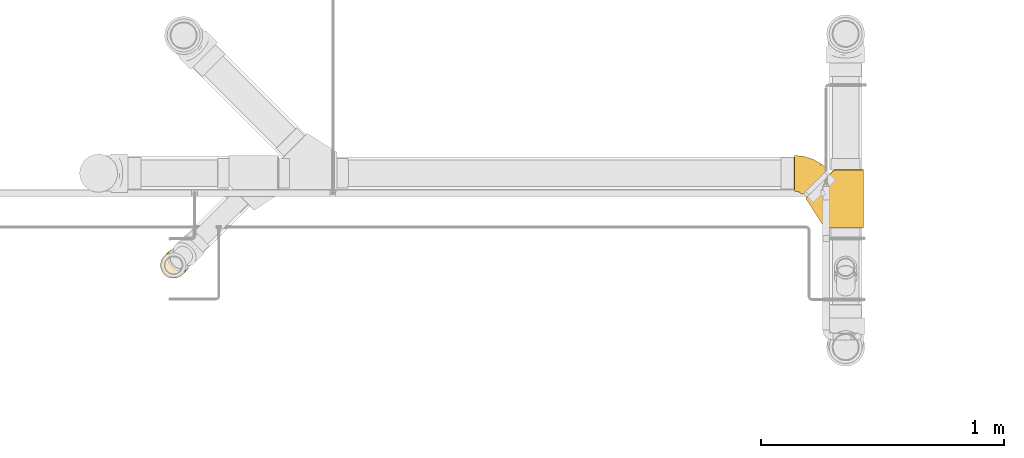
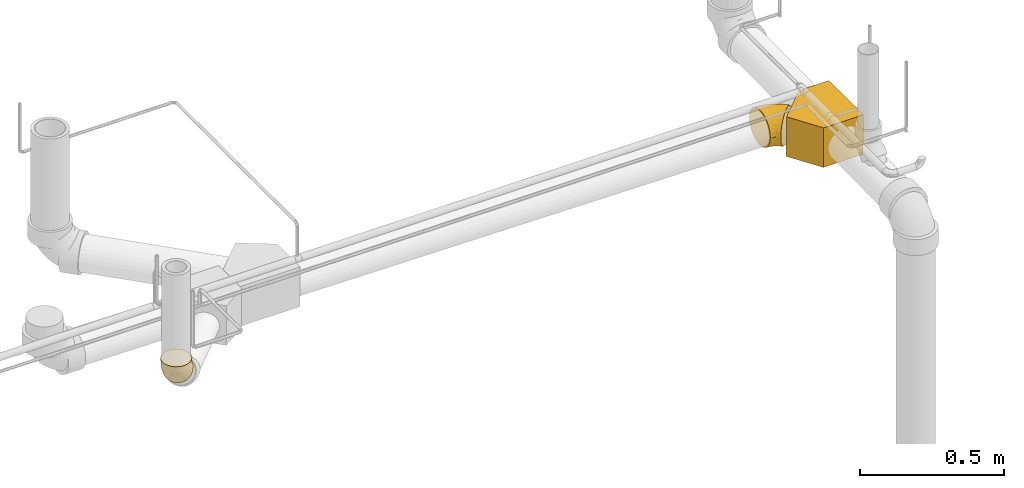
# One storey, part 10 of 108: 3 coverings.
"""IFC2X3 building model written with IfcOpenShell, lengths in millimetres."""

from ifc_helpers import new_model, entity, si_unit, converted_unit, derived_unit, direction, frame, origin_with_axes, place, context, subcontext, project, spatial, open_shell, surface_model, source, transform, mapped, element, save


model = new_model("IFC2X3")

# Units and contexts
model_context = context("Model", 3, precision=0.01, world=frame((0.0, 4.29681676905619e-09, 0.0)), true_north=direction((4.01073788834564e-13, 1.0)))
plan_context = context("Plan", 3, precision=0.01, world=frame((0.0, 4.29681676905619e-09, 0.0)), true_north=direction((4.01073788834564e-13, 1.0)))
body_context = subcontext(model_context, "Body", "Model", "MODEL_VIEW")
ifc_project = project(units=[converted_unit("PLANEANGLEUNIT", "DEGREE", entity("IfcPositiveLengthMeasure", 0.0174532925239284), si_unit("PLANEANGLEUNIT", "RADIAN"), dimensions=[0, 0, 0, 0, 0, 0, 0]), si_unit("AREAUNIT", "SQUARE_METRE"), si_unit("LENGTHUNIT", "METRE", prefix="MILLI"), si_unit("MASSUNIT", "GRAM", prefix="KILO"), si_unit("POWERUNIT", "WATT"), si_unit("PRESSUREUNIT", "PASCAL", prefix="KILO"), si_unit("FORCEUNIT", "NEWTON", prefix="KILO"), si_unit("ELECTRICVOLTAGEUNIT", "VOLT"), si_unit("ELECTRICCURRENTUNIT", "AMPERE"), si_unit("THERMODYNAMICTEMPERATUREUNIT", "DEGREE_CELSIUS"), si_unit("TIMEUNIT", "SECOND"), si_unit("VOLUMEUNIT", "CUBIC_METRE"), derived_unit("LINEARVELOCITYUNIT", [(si_unit("LENGTHUNIT", "METRE"), 1), (si_unit("TIMEUNIT", "SECOND"), -1)]), derived_unit("VOLUMETRICFLOWRATEUNIT", [(si_unit("VOLUMEUNIT", "CUBIC_METRE"), 1), (si_unit("TIMEUNIT", "SECOND"), -1)]), derived_unit("THERMALTRANSMITTANCEUNIT", [(si_unit("POWERUNIT", "WATT"), 1), (si_unit("THERMODYNAMICTEMPERATUREUNIT", "KELVIN"), -1), (si_unit("AREAUNIT", "SQUARE_METRE"), -1)]), derived_unit("SOUNDPRESSUREUNIT", [(si_unit("PRESSUREUNIT", "PASCAL"), 1)])], contexts=[model_context, plan_context])

# Site, building, storey
site_placement = place(None, frame((0.0, -4.29681676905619e-09, 0.0), z_axis=(0.0, 0.0, 1.0), x_axis=(1.0, 0.0, 0.0)))
site = spatial("IfcSite", under=ifc_project, at=site_placement, CompositionType="ELEMENT")
building_placement = place(site_placement, frame((0.0, 4.29681676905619e-09, 0.0), z_axis=(0.0, 0.0, 1.0), x_axis=(1.0, 0.0, 0.0)))
building = spatial("IfcBuilding", under=site, at=building_placement, Name="mc-building", CompositionType="ELEMENT")
storey_placement = place(building_placement, frame((0.0, 0.0, 210200.0), z_axis=(0.0, 0.0, 1.0), x_axis=(1.0, 0.0, 0.0)))
storey = spatial("IfcBuildingStorey", under=building, at=storey_placement, Name="Nivå F - 0,7 m", CompositionType="ELEMENT", Elevation=210200.0)

# Coverings
shared_shape_1 = source(origin_with_axes(), body_context, "Body", "SurfaceModel", [
    surface_model("IfcShellBasedSurfaceModel", [(-12.57296, 83.45295, 28.13327), (-7.76873, 78.64832, 40.8417), (-15.53163, 86.41186, 14.34271), (-15.53389, 86.41412, -14.32665), (-16.53073, 87.41104, 0.0), (45.56953, 25.30565, -72.0902), (15.55938, 55.31828, 67.90986), (25.30942, 45.56744, 72.0902), (-1.3038, 72.18285, 51.97971), (6.57318, 64.30522, 61.11944), (72.18274, -1.30977, -51.97971), (-12.57806, 83.45805, -28.11586), (-1.31422, 72.19327, -51.96498), (-7.77671, 78.6563, -40.82479), (25.29806, 45.57879, -72.08701), (15.54707, 55.33059, -67.90265), (6.56122, 64.31718, -61.10815), (35.43947, 35.43654, -73.5), (64.31772, 6.5559, 61.10815), (45.58088, 25.2943, 72.08701), (55.33188, 15.54249, 67.90265), (78.65565, -7.78322, 40.82479), (83.45701, -12.58496, 28.11586), (86.41058, -15.53878, -14.34271), (72.19316, -1.32019, 51.96498), (86.41283, -15.54103, 14.32665), (87.40967, -16.53796, 0.0), (64.30576, 6.56786, -61.11944), (55.31956, 15.55481, -67.90986), (83.45191, -12.57986, -28.13327), (78.64767, -7.77523, -40.8417), (35.43947, 35.43654, 73.5), (-50.11691, 70.99555, -19.0232), (-50.11691, 63.65287, 36.75), (-50.11691, 73.5, 0.0), (-50.11691, 51.97235, -51.97235), (-50.11691, 63.65287, -36.75), (-50.11691, 36.75, -63.65287), (-50.11691, 19.0232, 70.99555), (-50.11691, 19.0232, -70.99555), (-50.11691, 51.97235, 51.97235), (-50.11691, 70.99555, 19.0232), (-50.11691, 36.75, 63.65287), (-50.11691, 0.0, 73.5), (-50.11691, 0.0, -73.5), (-50.11691, -19.0232, -70.99555), (-50.11691, -36.75, -63.65287), (-50.11691, -73.5, 0.0), (-50.11691, -63.65287, -36.75), (-50.11691, -51.97235, -51.97235), (-50.11691, -70.99555, -19.0232), (-50.11691, -36.75, 63.65287), (-50.11691, -19.0232, 70.99555), (-50.11691, -51.97235, 51.97235), (-50.11691, -63.65287, 36.75), (-50.11691, -70.99555, 19.0232), (4.83353, -11.66985, 69.93933), (-12.17382, -69.76313, 0.0), (5.47114, -63.34165, 16.85809), (24.3113, -58.69611, 0.0), (52.8332, -40.58465, 20.46249), (31.2828, -13.95917, 63.73535), (-11.70094, -55.05893, 43.55971), (-15.48422, -63.93398, 29.88776), (-5.11992, -30.31444, 63.58738), (22.17412, -51.29445, 32.65845), (17.54076, -34.97987, 54.76451), (-17.48567, -44.85258, 55.63416), (18.60816, -45.08317, 44.17883), (-18.80142, 4.12254, 73.5), (51.47737, -35.26072, 33.57451), (57.93648, -40.72419, 0.0), (46.47634, -17.37364, 55.87411), (46.3929, -29.49712, 45.42379), (10.3802, 16.20926, 73.5), (-41.02863, 75.30767, 0.0), (-29.52321, 16.17244, 72.1214), (-16.17734, 66.51663, 46.63532), (-7.93318, 59.30016, 57.11768), (-1.68482, 33.8814, 70.33875), (-27.4694, 30.9309, 67.90515), (-24.23554, 82.26319, 0.0), (-23.32779, 77.99508, 21.34079), (-21.65532, 52.2802, 56.82324), (-36.77533, 45.92014, 58.31147), (-35.68485, 73.38902, 18.0479), (-36.78508, 59.7455, 44.74396), (-27.98578, 69.36015, 34.6544), (-39.43067, 67.50304, 31.41905), (-18.0392, 74.87556, 34.65411), (-9.78583, 45.50085, 64.41137), (-31.94035, 77.11534, 0.0), (-39.43154, 67.50123, -31.42244), (-27.9888, 69.3689, -34.63712), (-36.77814, 59.74701, -44.74397), (-35.67625, 73.39415, -18.03835), (-18.03442, 74.88983, -34.6373), (-16.18364, 66.52808, -46.61941), (-16.39537, 20.01665, -72.04846), (-27.48578, 30.92679, -67.90515), (-1.71594, 33.88339, -70.33364), (-9.79094, 45.51807, -64.40169), (-21.65898, 52.2959, -56.81019), (-7.94126, 59.31507, -57.10401), (-18.80142, 4.12254, -73.5), (-36.77211, 45.92071, -58.31147), (-23.32987, 77.9998, -21.32394), (10.3802, 16.20926, -73.5), (46.46456, -17.36318, -55.8872), (46.38357, -29.48838, -45.43956), (18.2158, -44.64867, -44.90261), (17.52847, -34.96922, -54.77762), (31.27086, -13.94702, -63.74487), (4.83353, -11.66985, -69.93933), (-5.09526, -30.29721, -63.59288), (-17.50215, -44.84169, -55.64614), (-11.71794, -55.06223, -43.56025), (22.17272, -51.28595, -32.67534), (52.83027, -40.58085, -20.47897), (5.47026, -63.33962, -16.86741), (-15.49031, -63.93361, -29.8911), (58.20119, -30.62053, -33.66429)], [open_shell([[[0, 1, 2]], [[2, 3, 4]], [[3, 2, 5]], [[6, 7, 8]], [[8, 9, 6]], [[5, 2, 1]], [[1, 8, 10]], [[11, 3, 12]], [[12, 13, 11]], [[3, 14, 12]], [[15, 16, 14]], [[14, 16, 12]], [[3, 5, 14]], [[14, 5, 17]], [[8, 7, 18]], [[19, 18, 7]], [[20, 18, 19]], [[18, 10, 8]], [[10, 18, 21]], [[21, 22, 23]], [[21, 18, 24]], [[25, 26, 22]], [[10, 27, 5]], [[28, 5, 27]], [[1, 10, 5]], [[23, 29, 21]], [[30, 10, 29]], [[21, 29, 10]], [[26, 23, 22]], [[7, 31, 19]], [[32, 33, 34]], [[35, 32, 36]], [[33, 35, 37]], [[32, 35, 33]], [[38, 37, 39]], [[33, 38, 40]], [[33, 41, 34]], [[40, 38, 42]], [[37, 38, 33]], [[39, 43, 38]], [[39, 44, 43]], [[44, 45, 46]], [[47, 44, 46]], [[47, 46, 48]], [[48, 46, 49]], [[47, 48, 50]], [[43, 51, 52]], [[53, 51, 43]], [[54, 47, 55]], [[47, 54, 53]], [[44, 47, 53]], [[53, 43, 44]], [[20, 19, 56]], [[55, 47, 57]], [[58, 57, 59]], [[59, 60, 58]], [[18, 20, 61]], [[62, 54, 63]], [[52, 51, 64]], [[60, 65, 58]], [[66, 67, 68]], [[66, 64, 67]], [[52, 69, 43]], [[69, 52, 56]], [[54, 62, 53]], [[20, 56, 61]], [[61, 64, 66]], [[70, 65, 60]], [[59, 71, 60]], [[71, 25, 60]], [[72, 24, 18]], [[70, 73, 68]], [[70, 21, 73]], [[25, 71, 26]], [[67, 51, 53]], [[52, 64, 56]], [[72, 73, 24]], [[62, 68, 67]], [[74, 19, 31]], [[56, 74, 69]], [[65, 62, 63]], [[55, 58, 63]], [[19, 74, 56]], [[72, 61, 66]], [[73, 72, 66]], [[61, 72, 18]], [[21, 24, 73]], [[55, 57, 58]], [[68, 62, 65]], [[60, 25, 22]], [[51, 67, 64]], [[64, 61, 56]], [[62, 67, 53]], [[55, 63, 54]], [[65, 63, 58]], [[60, 22, 70]], [[21, 70, 22]], [[70, 68, 65]], [[66, 68, 73]], [[75, 34, 41]], [[43, 69, 76]], [[8, 77, 78]], [[79, 80, 76]], [[2, 81, 82]], [[80, 83, 84]], [[75, 41, 85]], [[84, 86, 40]], [[82, 85, 87]], [[86, 33, 40]], [[86, 87, 88]], [[33, 86, 88]], [[78, 77, 83]], [[88, 41, 33]], [[69, 74, 79]], [[80, 84, 42]], [[0, 89, 1]], [[9, 90, 6]], [[7, 6, 79]], [[7, 74, 31]], [[85, 91, 75]], [[90, 9, 78]], [[80, 79, 90]], [[42, 38, 80]], [[8, 1, 77]], [[40, 42, 84]], [[91, 85, 82]], [[86, 77, 87]], [[76, 80, 38]], [[77, 89, 87]], [[0, 2, 82]], [[82, 87, 89]], [[87, 85, 88]], [[79, 74, 7]], [[41, 88, 85]], [[77, 86, 83]], [[86, 84, 83]], [[1, 89, 77]], [[0, 82, 89]], [[90, 78, 83]], [[8, 78, 9]], [[80, 90, 83]], [[6, 90, 79]], [[81, 2, 4]], [[81, 91, 82]], [[43, 76, 38]], [[79, 76, 69]], [[92, 93, 94]], [[32, 75, 95]], [[96, 13, 97]], [[81, 4, 3]], [[98, 99, 100]], [[101, 102, 103]], [[44, 39, 104]], [[97, 94, 93]], [[101, 99, 102]], [[32, 95, 92]], [[105, 37, 35]], [[39, 37, 99]], [[94, 97, 102]], [[95, 106, 93]], [[3, 11, 106]], [[94, 105, 35]], [[102, 97, 103]], [[100, 101, 15]], [[11, 13, 96]], [[13, 12, 97]], [[36, 94, 35]], [[92, 94, 36]], [[96, 93, 106]], [[103, 12, 16]], [[99, 98, 39]], [[15, 14, 100]], [[14, 17, 107]], [[95, 91, 106]], [[99, 37, 105]], [[107, 100, 14]], [[98, 107, 104]], [[107, 98, 100]], [[32, 92, 36]], [[3, 106, 81]], [[95, 93, 92]], [[105, 94, 102]], [[99, 105, 102]], [[93, 96, 97]], [[11, 96, 106]], [[12, 103, 97]], [[16, 15, 101]], [[101, 103, 16]], [[99, 101, 100]], [[106, 91, 81]], [[75, 32, 34]], [[75, 91, 95]], [[39, 98, 104]], [[27, 10, 108]], [[109, 110, 111]], [[45, 44, 104]], [[112, 108, 111]], [[5, 28, 113]], [[114, 113, 112]], [[115, 116, 49]], [[113, 114, 45]], [[47, 50, 57]], [[115, 111, 110]], [[117, 118, 119]], [[59, 57, 119]], [[116, 48, 49]], [[116, 120, 48]], [[45, 114, 46]], [[115, 46, 114]], [[113, 104, 107]], [[115, 114, 111]], [[107, 17, 5]], [[117, 119, 120]], [[27, 108, 112]], [[57, 50, 119]], [[113, 28, 112]], [[113, 45, 104]], [[120, 50, 48]], [[10, 30, 109]], [[118, 121, 29]], [[111, 108, 109]], [[110, 117, 116]], [[59, 119, 118]], [[23, 26, 71]], [[59, 118, 71]], [[23, 71, 118]], [[117, 109, 121]], [[30, 29, 121]], [[23, 118, 29]], [[114, 112, 111]], [[113, 107, 5]], [[109, 108, 10]], [[112, 28, 27]], [[46, 115, 49]], [[117, 120, 116]], [[50, 120, 119]], [[117, 121, 118]], [[30, 121, 109]], [[117, 110, 109]], [[115, 110, 116]]])]),
])
covering_1_placement = place(storey_placement, frame((328745.14056, 463531.64264, 3073.4411), z_axis=(0.00998201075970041, -0.00416001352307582, 0.999941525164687), x_axis=(-0.707071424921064, 0.707071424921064, 0.0100000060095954)))
element("IfcCovering", 1, at=covering_1_placement, inside=storey, Name="BI17T - Cellegummi 13 mm SPV fett", PredefinedType="INSULATION", context=body_context, shape_type="MappedRepresentation", body=[
    mapped(shared_shape_1, transform((0.0, 0.0, 0.0), scale=1.0)),
])
shared_shape_2 = source(origin_with_axes(), body_context, "Body", "SurfaceModel", [
    surface_model("IfcShellBasedSurfaceModel", [(58.69898, -164.45348, -92.50682), (58.69898, -164.45348, 75.62133), (-63.88926, -86.50706, 74.07259), (-63.88926, -86.50706, -94.05555), (175.46792, -47.67487, -91.8228), (175.46792, -47.67487, 76.30534), (175.46792, 73.5626, 75.80318), (175.46792, 72.86624, -92.32207), (-63.88926, 73.55268, 73.40963), (-63.88926, 72.85632, -94.71563)], [open_shell([[[0, 1, 2]], [[2, 3, 0]], [[1, 0, 4]], [[4, 5, 1]], [[5, 4, 6]], [[7, 6, 4]], [[6, 8, 5]], [[5, 2, 1]], [[2, 5, 8]], [[0, 3, 4]], [[4, 9, 7]], [[9, 4, 3]], [[7, 9, 8]], [[8, 6, 7]], [[3, 2, 8]], [[8, 9, 3]]])]),
])
covering_2_placement = place(storey_placement, frame((328906.4829, 463370.30029, 3071.15937000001), z_axis=(-0.0041420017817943, 0.0099989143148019, -0.999941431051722), x_axis=(0.0, 0.999950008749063, 0.00999900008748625)))
element("IfcCovering", 2, at=covering_2_placement, inside=storey, Name="BI17T - Cellegummi 13 mm SPV fett", PredefinedType="INSULATION", context=body_context, shape_type="MappedRepresentation", body=[
    mapped(shared_shape_2, transform((0.0, 0.0, 0.0), scale=1.0)),
])
shared_shape_3 = source(origin_with_axes(), body_context, "Body", "SurfaceModel", [
    surface_model("IfcShellBasedSurfaceModel", [(-13.23428, 61.56166, 12.07667), (-13.23719, 61.56457, -12.05862), (-14.19685, 62.52423, 0.0), (-5.82288, 54.15026, 33.83302), (-10.3953, 58.72268, 23.54601), (7.52816, 40.79922, 48.88334), (15.63696, 32.69042, 52.89284), (0.25326, 48.07413, 42.42222), (7.51415, 40.81323, -48.8738), (-5.83335, 54.16073, -33.81446), (-10.40205, 58.72943, -23.52619), (0.24013, 48.08725, -42.40742), (24.16369, 24.16369, -54.25), (15.6242, 32.70318, -52.88872), (24.16369, 24.16369, 54.25), (32.70318, 15.6242, 52.88872), (40.81323, 7.51415, 48.8738), (48.08725, 0.24013, 42.40742), (54.16073, -5.83335, 33.81446), (61.56457, -13.23719, 12.05862), (58.72943, -10.40205, 23.52619), (54.15026, -5.82288, -33.83302), (40.79922, 7.52816, -48.88334), (48.07413, 0.25326, -42.42222), (32.69042, 15.63696, -52.89284), (58.72268, -10.3953, -23.54601), (61.56166, -13.23428, -12.07667), (62.52423, -14.19685, 0.0), (-34.17262, 38.36054, -38.36054), (-34.17262, 54.25, 0.0), (-34.17262, 52.40148, -14.04093), (-34.17262, 46.98188, -27.125), (-34.17262, 27.125, -46.98188), (-34.17262, 52.40148, 14.04093), (-34.17262, -14.04093, 52.40148), (-34.17262, 14.04093, 52.40148), (-34.17262, 38.36054, 38.36054), (-34.17262, 46.98188, 27.125), (-34.17262, 27.125, 46.98188), (-34.17262, 0.0, 54.25), (-34.17262, 14.04093, -52.40148), (-34.17262, -52.40148, -14.04093), (-34.17262, 0.0, -54.25), (-34.17262, -14.04093, -52.40148), (-34.17262, -38.36054, -38.36054), (-34.17262, -27.125, -46.98188), (-34.17262, -46.98188, -27.125), (-34.17262, -52.40148, 14.04093), (-34.17262, -27.125, 46.98188), (-34.17262, -38.36054, 38.36054), (-34.17262, -46.98188, 27.125), (-34.17262, -54.25, 0.0), (30.17691, -20.95282, 37.3625), (1.22089, -49.59036, 0.0), (-12.81324, -50.86915, 13.40127), (-9.82958, -41.29632, 32.19092), (34.20238, -35.92897, 0.0), (7.79543, -45.63116, 14.30798), (-10.14542, -33.19119, 40.88319), (37.03241, -30.97424, 17.15924), (16.07587, -36.76793, 27.23048), (-2.60124, 6.27994, 54.25), (-10.564, -7.46993, 53.22103), (10.86412, 2.27652, 53.41162), (-9.28792, -18.88631, 49.63514), (10.14522, -22.1042, 44.44702), (16.14236, -6.59603, 50.4992), (-10.45512, -47.31677, 22.27597), (9.4322, -32.52334, 36.08195), (39.21018, -23.47399, 28.10676), (30.2064, -9.61959, 45.27552), (-8.90263, 46.29972, 38.36893), (-5.70915, 37.02512, 45.94169), (-1.32761, 18.83615, 53.1513), (-15.5907, 13.72466, 53.06888), (-24.1381, 21.48612, 50.15934), (-11.7959, 24.95837, 50.12046), (-19.45974, 59.00768, 0.0), (8.79419, 13.89412, 54.25), (-22.43704, 52.32202, 20.76057), (-26.49609, 54.08765, 11.25862), (-28.92429, 50.58804, 20.66648), (-20.7165, 56.41785, 10.86286), (-25.79879, 44.88217, 31.78768), (-23.15728, 32.99312, 43.96519), (-14.77505, 51.49783, 28.87112), (-0.88231, 29.2547, 50.54508), (-17.22284, 55.40722, 19.71215), (-23.36181, 56.4004, 0.0), (-27.96462, 55.48485, 0.0), (-16.95156, 41.84945, 38.36893), (-16.04305, 3.60619, 54.25), (-3.49704, 38.51062, -45.92952), (-11.34587, 44.73109, -38.35215), (-28.76721, 55.3252, 0.0), (-25.93485, 52.63303, -16.99937), (-19.94169, 48.82521, -28.85176), (-21.27408, 40.29583, -38.3523), (-26.87412, 45.41868, -30.72987), (-13.26121, 52.51295, -28.85176), (-16.76603, 19.37646, -51.51084), (-2.60124, 6.27994, -54.25), (-18.38693, 3.13997, -54.25), (-0.77201, 27.23296, -51.20341), (-24.18289, 31.72119, -44.69486), (-17.98786, 55.72106, -17.90499), (8.79419, 13.89412, -54.25), (-13.29757, 33.10072, -45.92952), (-10.59293, -7.46379, -53.22366), (16.13339, -6.57958, -50.50655), (-9.28076, -18.86756, -49.64241), (30.16915, -20.93872, -37.3794), (39.20335, -23.46458, -28.12594), (16.06988, -36.75854, -27.24939), (37.02688, -30.97038, -17.17788), (-12.82676, -50.86742, -13.41635), (10.8145, 2.25285, -53.41226), (7.76905, -45.6359, -14.32153), (-10.13767, -33.18559, -40.8866), (-9.84302, -41.29861, -32.1914), (-10.46711, -47.31524, -22.28411), (10.14027, -22.08629, -44.45991), (30.1966, -9.60331, -45.28803), (9.43445, -32.5258, -36.07848)], [open_shell([[[0, 1, 2]], [[3, 0, 4]], [[5, 6, 7]], [[7, 6, 0]], [[0, 3, 7]], [[8, 0, 6]], [[1, 9, 10]], [[1, 0, 9]], [[11, 9, 8]], [[12, 13, 8]], [[8, 9, 0]], [[6, 12, 8]], [[6, 14, 12]], [[14, 15, 16]], [[14, 16, 17]], [[17, 18, 19]], [[20, 19, 18]], [[17, 19, 14]], [[21, 12, 19]], [[22, 21, 23]], [[22, 24, 12]], [[12, 21, 22]], [[21, 19, 25]], [[26, 25, 19]], [[19, 27, 26]], [[19, 12, 14]], [[28, 29, 30]], [[28, 30, 31]], [[29, 32, 33]], [[32, 29, 28]], [[32, 34, 35]], [[33, 36, 37]], [[36, 33, 35]], [[36, 35, 38]], [[33, 32, 35]], [[35, 34, 39]], [[32, 40, 34]], [[41, 42, 43]], [[44, 43, 45]], [[44, 46, 41]], [[44, 41, 43]], [[42, 41, 47]], [[48, 47, 49]], [[47, 48, 34]], [[49, 47, 50]], [[34, 42, 47]], [[41, 51, 47]], [[42, 34, 40]], [[17, 52, 18]], [[51, 53, 54]], [[50, 55, 49]], [[53, 56, 57]], [[58, 48, 49]], [[59, 60, 57]], [[61, 62, 63]], [[58, 64, 48]], [[62, 39, 34]], [[64, 65, 66]], [[54, 67, 47]], [[65, 58, 68]], [[55, 58, 49]], [[64, 62, 34]], [[59, 57, 56]], [[56, 19, 59]], [[20, 18, 69]], [[20, 69, 59]], [[66, 62, 64]], [[27, 19, 56]], [[70, 52, 17]], [[48, 64, 34]], [[60, 55, 67]], [[63, 14, 61]], [[16, 15, 66]], [[66, 65, 70]], [[59, 69, 60]], [[52, 69, 18]], [[16, 70, 17]], [[54, 57, 67]], [[66, 63, 62]], [[20, 59, 19]], [[39, 62, 61]], [[69, 52, 60]], [[67, 55, 50]], [[60, 52, 68]], [[68, 58, 55]], [[58, 65, 64]], [[60, 68, 55]], [[65, 68, 52]], [[66, 15, 63]], [[14, 63, 15]], [[47, 67, 50]], [[60, 67, 57]], [[66, 70, 16]], [[52, 70, 65]], [[51, 54, 47]], [[53, 57, 54]], [[71, 72, 7]], [[73, 74, 61]], [[35, 74, 75]], [[74, 73, 76]], [[0, 2, 77]], [[78, 6, 73]], [[79, 80, 81]], [[0, 77, 82]], [[83, 36, 84]], [[79, 81, 83]], [[83, 85, 79]], [[80, 79, 82]], [[72, 5, 7]], [[86, 6, 5]], [[3, 71, 7]], [[79, 87, 82]], [[84, 36, 38]], [[73, 86, 76]], [[78, 73, 61]], [[38, 75, 84]], [[80, 82, 88]], [[82, 87, 0]], [[80, 88, 89]], [[84, 72, 90]], [[77, 88, 82]], [[79, 85, 87]], [[85, 3, 4]], [[71, 85, 90]], [[76, 86, 72]], [[39, 91, 74]], [[78, 14, 6]], [[80, 29, 33]], [[74, 91, 61]], [[29, 80, 89]], [[81, 80, 33]], [[33, 37, 81]], [[83, 81, 37]], [[36, 83, 37]], [[83, 90, 85]], [[75, 74, 76]], [[39, 74, 35]], [[76, 72, 84]], [[38, 35, 75]], [[76, 84, 75]], [[84, 90, 83]], [[85, 71, 3]], [[72, 71, 90]], [[85, 4, 87]], [[0, 87, 4]], [[6, 86, 73]], [[5, 72, 86]], [[92, 93, 11]], [[30, 94, 95]], [[96, 97, 98]], [[93, 99, 9]], [[100, 101, 102]], [[8, 13, 103]], [[100, 32, 104]], [[77, 105, 88]], [[93, 97, 96]], [[95, 105, 96]], [[103, 13, 106]], [[102, 40, 100]], [[10, 105, 1]], [[77, 2, 1]], [[9, 11, 93]], [[9, 99, 10]], [[28, 97, 104]], [[31, 30, 95]], [[99, 105, 10]], [[96, 99, 93]], [[100, 107, 103]], [[92, 11, 8]], [[101, 103, 106]], [[95, 88, 105]], [[95, 96, 98]], [[92, 103, 107]], [[97, 93, 107]], [[40, 102, 42]], [[13, 12, 106]], [[105, 77, 1]], [[101, 100, 103]], [[32, 100, 40]], [[105, 99, 96]], [[103, 92, 8]], [[93, 92, 107]], [[104, 97, 107]], [[98, 28, 31]], [[100, 104, 107]], [[28, 104, 32]], [[28, 98, 97]], [[95, 98, 31]], [[94, 30, 29]], [[94, 88, 95]], [[108, 109, 110]], [[111, 112, 113]], [[101, 108, 42]], [[111, 23, 21]], [[114, 112, 25]], [[45, 43, 110]], [[41, 115, 51]], [[108, 101, 116]], [[114, 117, 113]], [[108, 110, 43]], [[118, 45, 110]], [[46, 119, 120]], [[42, 108, 43]], [[44, 119, 46]], [[22, 109, 24]], [[110, 121, 118]], [[109, 22, 122]], [[41, 120, 115]], [[122, 22, 23]], [[112, 111, 21]], [[123, 113, 119]], [[121, 122, 111]], [[117, 114, 56]], [[112, 21, 25]], [[26, 27, 56]], [[117, 56, 53]], [[26, 56, 114]], [[112, 114, 113]], [[110, 109, 121]], [[26, 114, 25]], [[116, 109, 108]], [[116, 12, 24]], [[120, 41, 46]], [[119, 118, 123]], [[118, 119, 44]], [[120, 113, 117]], [[45, 118, 44]], [[123, 121, 111]], [[121, 123, 118]], [[113, 123, 111]], [[12, 116, 101]], [[24, 109, 116]], [[113, 120, 119]], [[120, 117, 115]], [[111, 122, 23]], [[109, 122, 121]], [[117, 53, 115]], [[51, 115, 53]]])]),
])
covering_3_placement = place(storey_placement, frame((326138.13322, 463153.0997, 3188.33334000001), z_axis=(-0.707106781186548, 0.707106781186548, 0.0), x_axis=(-0.499999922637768, -0.499999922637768, 0.707106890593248)))
element("IfcCovering", 3, at=covering_3_placement, inside=storey, Name="BI17T - Cellegummi 13 mm SPV fett", PredefinedType="INSULATION", context=body_context, shape_type="MappedRepresentation", body=[
    mapped(shared_shape_3, transform((0.0, 0.0, 0.0), scale=1.0)),
])

save(model, "model.ifc")
